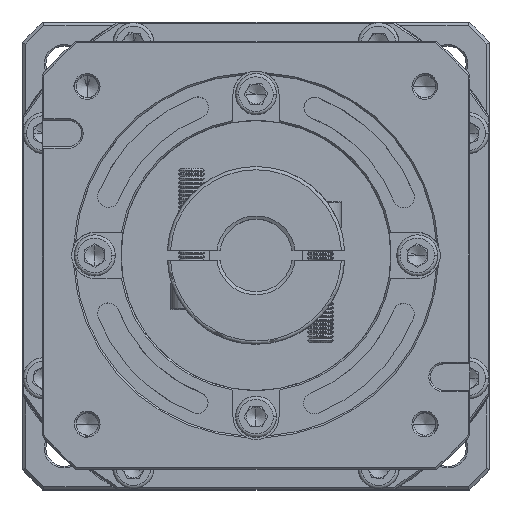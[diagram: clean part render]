
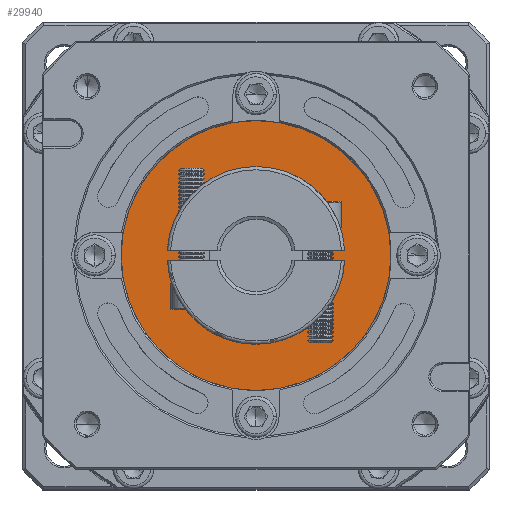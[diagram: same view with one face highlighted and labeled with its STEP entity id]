
A CAD part, top view. The second image highlights one B-rep face of the part: STEP entity #29940.
In plain terms, the highlighted planar face has unit normal (0, 0, 1).
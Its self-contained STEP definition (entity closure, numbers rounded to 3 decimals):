
#5739 = EDGE_CURVE ( 'NONE', #6534, #64585, #128587, .T. ) ;
#6255 = CIRCLE ( 'NONE', #46217, 41. ) ;
#6534 = VERTEX_POINT ( 'NONE', #133021 ) ;
#8596 = EDGE_LOOP ( 'NONE', ( #48957, #76445 ) ) ;
#13566 = EDGE_CURVE ( 'NONE', #134407, #29236, #68178, .T. ) ;
#18481 = ORIENTED_EDGE ( 'NONE', *, *, #103511, .T. ) ;
#19774 = CARTESIAN_POINT ( 'NONE',  ( 64.925, -5.806, 141.65 ) ) ;
#20248 = DIRECTION ( 'NONE',  ( 0., 0., -1. ) ) ;
#29236 = VERTEX_POINT ( 'NONE', #96017 ) ;
#29940 = ADVANCED_FACE ( 'NONE', ( #57109, #87333 ), #69123, .T. ) ;
#35832 = DIRECTION ( 'NONE',  ( 1., 0., 0. ) ) ;
#41552 = AXIS2_PLACEMENT_3D ( 'NONE', #19774, #127770, #138584 ) ;
#42244 = DIRECTION ( 'NONE',  ( 1., 0., 0. ) ) ;
#46217 = AXIS2_PLACEMENT_3D ( 'NONE', #138032, #64622, #68775 ) ;
#48957 = ORIENTED_EDGE ( 'NONE', *, *, #82041, .T. ) ;
#53550 = EDGE_LOOP ( 'NONE', ( #68066, #18481 ) ) ;
#57109 = FACE_OUTER_BOUND ( 'NONE', #53550, .T. ) ;
#64585 = VERTEX_POINT ( 'NONE', #93848 ) ;
#64622 = DIRECTION ( 'NONE',  ( 0., 0., 1. ) ) ;
#68066 = ORIENTED_EDGE ( 'NONE', *, *, #13566, .T. ) ;
#68178 = CIRCLE ( 'NONE', #86252, 41. ) ;
#68775 = DIRECTION ( 'NONE',  ( 1., 0., 0. ) ) ;
#69123 = PLANE ( 'NONE',  #118972 ) ;
#72849 = CARTESIAN_POINT ( 'NONE',  ( 105.925, -5.806, 141.65 ) ) ;
#73671 = DIRECTION ( 'NONE',  ( 0., 0., 1. ) ) ;
#75197 = AXIS2_PLACEMENT_3D ( 'NONE', #106427, #20248, #42244 ) ;
#76445 = ORIENTED_EDGE ( 'NONE', *, *, #5739, .T. ) ;
#78993 = DIRECTION ( 'NONE',  ( 0., 0., 1. ) ) ;
#82041 = EDGE_CURVE ( 'NONE', #64585, #6534, #113749, .T. ) ;
#86252 = AXIS2_PLACEMENT_3D ( 'NONE', #116219, #73671, #105988 ) ;
#87333 = FACE_BOUND ( 'NONE', #8596, .T. ) ;
#89714 = CARTESIAN_POINT ( 'NONE',  ( 64.925, -5.806, 141.65 ) ) ;
#93848 = CARTESIAN_POINT ( 'NONE',  ( 84.925, -5.806, 141.65 ) ) ;
#96017 = CARTESIAN_POINT ( 'NONE',  ( 23.925, -5.806, 141.65 ) ) ;
#103511 = EDGE_CURVE ( 'NONE', #29236, #134407, #6255, .T. ) ;
#105988 = DIRECTION ( 'NONE',  ( 1., 0., 0. ) ) ;
#106427 = CARTESIAN_POINT ( 'NONE',  ( 64.925, -5.806, 141.65 ) ) ;
#113749 = CIRCLE ( 'NONE', #41552, 20. ) ;
#116219 = CARTESIAN_POINT ( 'NONE',  ( 64.925, -5.806, 141.65 ) ) ;
#118972 = AXIS2_PLACEMENT_3D ( 'NONE', #89714, #78993, #35832 ) ;
#127770 = DIRECTION ( 'NONE',  ( 0., 0., -1. ) ) ;
#128587 = CIRCLE ( 'NONE', #75197, 20. ) ;
#133021 = CARTESIAN_POINT ( 'NONE',  ( 44.925, -5.806, 141.65 ) ) ;
#134407 = VERTEX_POINT ( 'NONE', #72849 ) ;
#138032 = CARTESIAN_POINT ( 'NONE',  ( 64.925, -5.806, 141.65 ) ) ;
#138584 = DIRECTION ( 'NONE',  ( 1., 0., 0. ) ) ;
